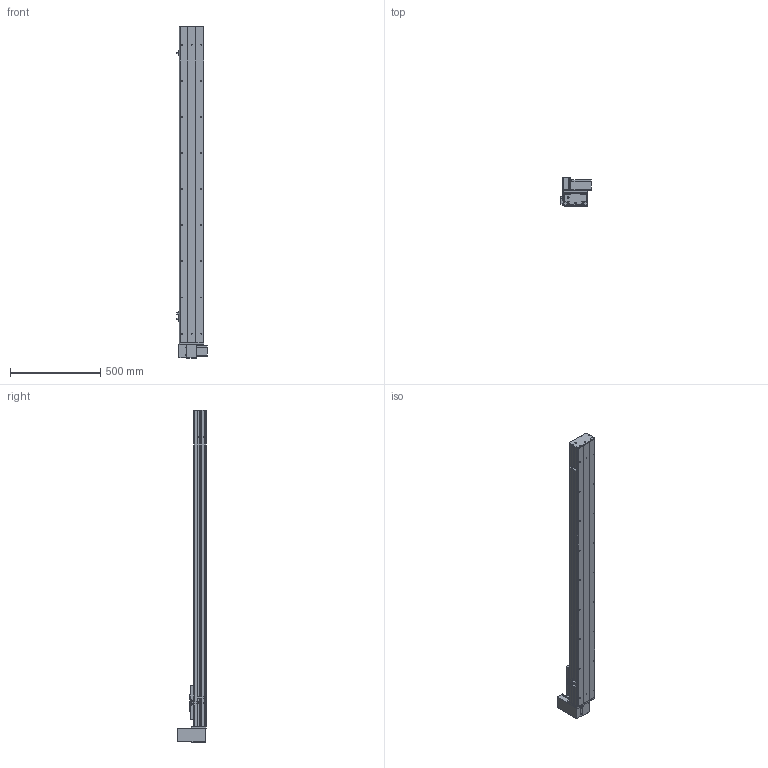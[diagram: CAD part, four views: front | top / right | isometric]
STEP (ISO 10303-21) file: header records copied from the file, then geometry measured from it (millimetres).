
FILE_DESCRIPTION (( 'STEP AP203' ), '1' );
FILE_NAME ('Y135CB-D90-S1450-UR-P400W.STEP', '2020-02-18T04:14:37', ( '微软用户' ), ( '微软中国' ), 'SwSTEP 2.0', 'SolidWorks 2017', '' );
FILE_SCHEMA (( 'CONFIG_CONTROL_DESIGN' ));
Length unit declared in the file: millimetre
Products named in the file (18): Y10B-耜蚾蟀諉啣----; 5CB --掛极耜裔啣-; 00B-俋欶BM--; C-詩湍揤踡え-陔; Y135CB-耜裔; Y135CB-D90-S1450-UR-P400W; 135CB--詩湍-CE; 135CB---遴掛极.-; Y100-135俋离換覜ん--; 35CB---喘謫眊楊擘啣; Y135C-陔俋离換覜結え-; 0B-埴倛裔啣; 5C--俋欶; 0B-源倛裔啣; C-雄赽釱--; 0B-萇儂楊擘啣; Y10B--々湍喘謫眊--666; san松下电机400不带刹车----
Assembly tree (21 placements, depth 2):
  Y135CB-D90-S1450-UR-P400W
    Y135CB-耜裔
    135CB---遴掛极.-
    35CB---喘謫眊楊擘啣
    0B-埴倛裔啣
    0B-源倛裔啣
    0B-萇儂楊擘啣
    san松下电机400不带刹车----
    5CB --掛极耜裔啣-  x2
    C-詩湍揤踡え-陔  x2
    135CB--詩湍-CE
    Y100-135俋离換覜ん--  x3
    Y135C-陔俋离換覜結え-
    5C--俋欶
    C-雄赽釱--
    Y10B--々湍喘謫眊--666
    Y10B-耜蚾蟀諉啣----
    00B-俋欶BM--
Bounding box: 167.5 x 158.7 x 1838 mm (x, y, z)
Volume: 5555119.7 mm3; surface area: 2185329.1 mm2
Topology: 21 solids, 21 shells, 953 faces, 2563 edges, 1698 vertices
Faces by surface type: cylinder 481, plane 456, cone 16
Entity records: 29753 total; most frequent: DIRECTION 4943, CARTESIAN_POINT 4900, ORIENTED_EDGE 4602, EDGE_CURVE 2301, AXIS2_PLACEMENT_3D 1805, VERTEX_POINT 1526, LINE 1333, VECTOR 1333
